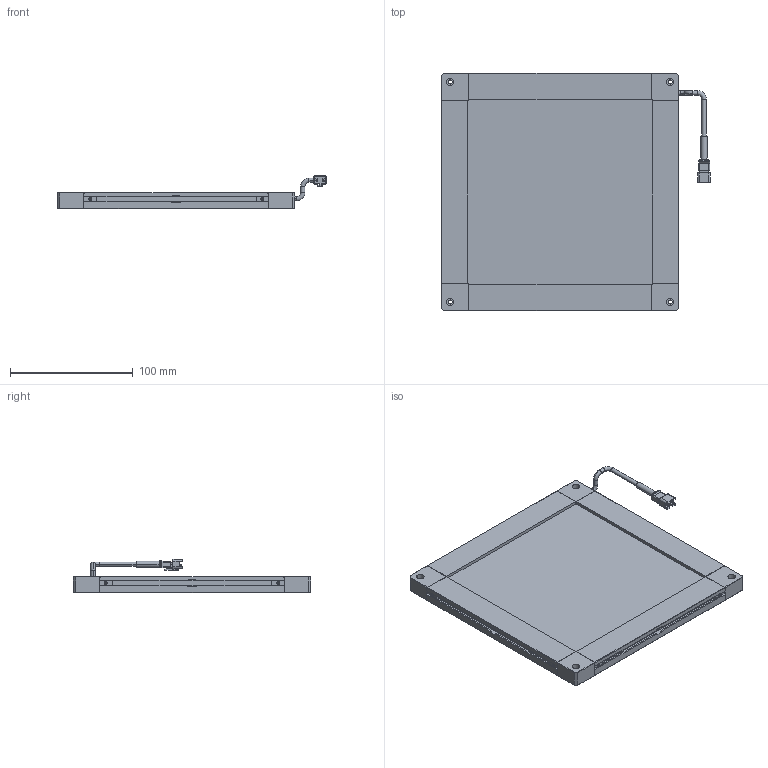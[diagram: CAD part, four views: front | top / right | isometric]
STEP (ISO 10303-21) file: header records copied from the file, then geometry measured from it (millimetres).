
FILE_DESCRIPTION (( 'STEP AP203' ), '1' );
FILE_NAME ('UA21745.STEP', '2020-11-09T06:50:57', ( 'CCS' ), ( 'シーシーエス株式会社' ), 'SwSTEP 2.0', 'SolidWorks 2017', '' );
FILE_SCHEMA (( 'CONFIG_CONTROL_DESIGN' ));
Length unit declared in the file: millimetre
Products named in the file (1): UA21745
Bounding box: 218.85 x 193 x 27.1 mm (x, y, z)
Surface area: 103771.8 mm2 (no closed solid volume)
Topology: 0 solids, 31 shells, 497 faces, 1662 edges, 1174 vertices
Faces by surface type: plane 316, cylinder 94, bspline 36, cone 29, torus 22
Entity records: 19394 total; most frequent: CARTESIAN_POINT 5256, DIRECTION 2835, ORIENTED_EDGE 2585, EDGE_CURVE 1662, LINE 1227, VECTOR 1227, VERTEX_POINT 1174, AXIS2_PLACEMENT_3D 804
